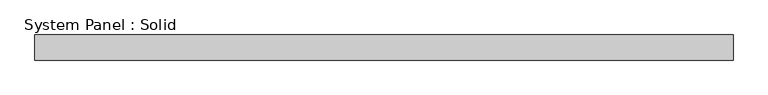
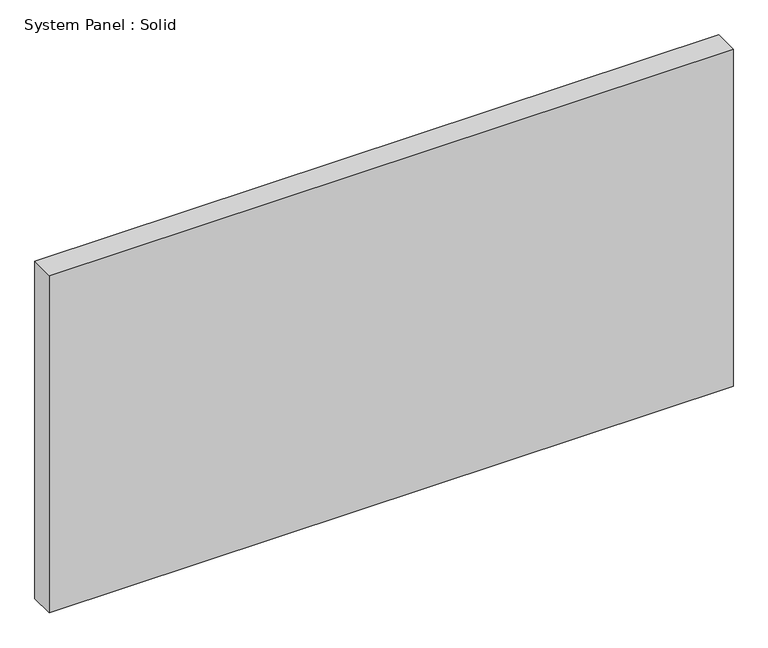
"""IFC4 building model written with IfcOpenShell, lengths in millimetres: plate geometry, System Panel : Solid."""

import ifcopenshell
import ifcopenshell.guid

model = None  # the IFC model being written
_history = None  # IfcOwnerHistory: only IFC2X3 demands one
_inside = {}  # id of a spatial element -> (the spatial element, [elements in it])
_under = {}  # id of a project, library or spatial element -> (it, [spatial elements below it])
_declared = {}  # id of a project -> (the project, [libraries it declares])
_typed = {}  # id of a type object -> (the type object, [elements of that type])
_made_of = {}  # id of a material, layer set ... -> (it, [elements and type objects made of it])


def new_model(schema):
    """Start an empty IFC model of exactly this schema.

    Asked for "IFC4X3", IfcOpenShell would pick the latest addendum, in which some entities
    have other attributes; the version numbers below select the first issue.
    IFC2X3 requires an IfcOwnerHistory on every rooted entity: one is made here for all.
    """
    global model, _history
    if schema == "IFC4X3":
        model = ifcopenshell.file(schema_version=(4, 3, 0, 0))
    else:
        model = ifcopenshell.file(schema=schema)
    _inside.clear()
    _under.clear()
    _declared.clear()
    _typed.clear()
    _made_of.clear()
    _history = None
    if model.schema == "IFC2X3":
        org = make("IfcOrganization", Name="unknown")
        user = make(
            "IfcPersonAndOrganization",
            ThePerson=make("IfcPerson", FamilyName="unknown"),
            TheOrganization=org,
        )
        app = make(
            "IfcApplication",
            ApplicationDeveloper=org,
            Version="unknown",
            ApplicationFullName="unknown",
            ApplicationIdentifier="unknown",
        )
        _history = make(
            "IfcOwnerHistory",
            OwningUser=user,
            OwningApplication=app,
            ChangeAction="ADDED",
            CreationDate=0,
        )
    return model


def make(cls, **values):
    """One entity of the class cls with the attributes given. An attribute that is None is left unset."""
    return model.create_entity(
        cls, **{name: value for name, value in values.items() if value is not None}
    )


def rooted(cls, **values):
    """An entity with a GlobalId (a new one), such as an element, a storey or a relation."""
    return make(cls, GlobalId=ifcopenshell.guid.new(), OwnerHistory=_history, **values)


def si_unit(unit_type, name, prefix=None):
    """IfcSIUnit, for example si_unit("LENGTHUNIT", "METRE", prefix="MILLI")."""
    return make("IfcSIUnit", UnitType=unit_type, Prefix=prefix, Name=name)


def assignment(units):
    """IfcUnitAssignment: the units of a project."""
    return None if units is None else make("IfcUnitAssignment", Units=units)


def point(xyz):
    """IfcCartesianPoint."""
    return None if xyz is None else make("IfcCartesianPoint", Coordinates=xyz)


def direction(xyz):
    """IfcDirection."""
    return None if xyz is None else make("IfcDirection", DirectionRatios=xyz)


def frame(location, z_axis=None, x_axis=None):
    """IfcAxis2Placement3D, a coordinate frame: its origin and axes. An axis left out is left unset."""
    return make(
        "IfcAxis2Placement3D",
        Location=point(location),
        Axis=direction(z_axis),
        RefDirection=direction(x_axis),
    )


def origin():
    """The frame at (0, 0, 0) with its axes left unset."""
    return frame((0.0, 0.0, 0.0))


def origin_with_axes():
    """The frame at (0, 0, 0) with the z axis (0, 0, 1) and the x axis (1, 0, 0) written out."""
    return frame((0.0, 0.0, 0.0), z_axis=(0.0, 0.0, 1.0), x_axis=(1.0, 0.0, 0.0))


def place(relative_to, where):
    """IfcLocalPlacement: puts the frame where relative to a parent placement (None: the world)."""
    return make(
        "IfcLocalPlacement", PlacementRelTo=relative_to, RelativePlacement=where
    )


def context(
    kind, dimensions, precision=None, world=None, true_north=None, identifier=None
):
    """IfcGeometricRepresentationContext, for example the 3D "Model" context."""
    return make(
        "IfcGeometricRepresentationContext",
        ContextIdentifier=identifier,
        ContextType=kind,
        CoordinateSpaceDimension=dimensions,
        Precision=precision,
        WorldCoordinateSystem=world,
        TrueNorth=true_north,
    )


def project(units=None, contexts=None):
    """IfcProject with its units and contexts."""
    return rooted(
        "IfcProject",
        Name="project",
        RepresentationContexts=contexts,
        UnitsInContext=assignment(units),
    )


def spatial(cls, under=None, at=None, **own):
    """A site, building, storey or space (cls), placed at a placement, below another one or the project."""
    s = rooted(cls, ObjectPlacement=at, **own)
    if under is not None:
        _under.setdefault(under.id(), (under, []))[1].append(s)
    return s


def polyline(points):
    """IfcPolyline through the points."""
    return make("IfcPolyline", Points=[point(p) for p in points])


def outline(outer, holes=None, kind="AREA"):
    """IfcArbitraryClosedProfileDef: a profile drawn as a closed curve; with holes, ...WithVoids."""
    if holes is None:
        return make("IfcArbitraryClosedProfileDef", ProfileType=kind, OuterCurve=outer)
    return make(
        "IfcArbitraryProfileDefWithVoids",
        ProfileType=kind,
        OuterCurve=outer,
        InnerCurves=holes,
    )


def extrude(swept, where, along, depth):
    """IfcExtrudedAreaSolid: the profile swept, set in the frame where, extruded along a direction by depth."""
    return make(
        "IfcExtrudedAreaSolid",
        SweptArea=swept,
        Position=where,
        ExtrudedDirection=direction(along),
        Depth=depth,
    )


def shape(context_of_items, identifier, shape_type, items):
    """IfcShapeRepresentation: the items that make up one representation, for example the "Body"."""
    return make(
        "IfcShapeRepresentation",
        ContextOfItems=context_of_items,
        RepresentationIdentifier=identifier,
        RepresentationType=shape_type,
        Items=items,
    )


def source(mapping_origin, context_of_items, identifier, shape_type, items):
    """IfcRepresentationMap: a shape defined once, which mapped items show again and again."""
    return make(
        "IfcRepresentationMap",
        MappingOrigin=mapping_origin,
        MappedRepresentation=shape(context_of_items, identifier, shape_type, items),
    )


def transform(
    local_origin,
    x_axis=None,
    y_axis=None,
    z_axis=None,
    scale=None,
    scale2=None,
    scale3=None,
    uniform=True,
):
    """IfcCartesianTransformationOperator3D, or its non-uniform kind. x_axis, y_axis, z_axis: its Axis1, 2, 3."""
    if uniform:
        return make(
            "IfcCartesianTransformationOperator3D",
            Axis1=direction(x_axis),
            Axis2=direction(y_axis),
            LocalOrigin=point(local_origin),
            Scale=scale,
            Axis3=direction(z_axis),
        )
    return make(
        "IfcCartesianTransformationOperator3DnonUniform",
        Axis1=direction(x_axis),
        Axis2=direction(y_axis),
        LocalOrigin=point(local_origin),
        Scale=scale,
        Axis3=direction(z_axis),
        Scale2=scale2,
        Scale3=scale3,
    )


def mapped(mapping_source, mapping_target):
    """IfcMappedItem: shows the shape of a source again, moved by a transform."""
    return make(
        "IfcMappedItem", MappingSource=mapping_source, MappingTarget=mapping_target
    )


def made_of(thing, what):
    """Note that an element or type object is made of a material, layer set ...; save() writes the relation."""
    if what is not None:
        _made_of.setdefault(what.id(), (what, []))[1].append(thing)
    return thing


def element(
    cls,
    number,
    at=None,
    inside=None,
    cuts=None,
    type_object=None,
    material=None,
    context=None,
    identifier="Body",
    shape_type=None,
    held_by="IfcProductDefinitionShape",
    body=None,
    shapes=None,
    **own,
):
    """One element of the class cls, such as IfcWall. Its Tag is "e" and its number.

    at: its placement. inside: the storey or other place that contains it. cuts: it is an
    opening in that element (IfcRelVoidsElement). A single representation is given by context,
    identifier, shape_type and body (its items); several are given by shapes. held_by: the class
    of the entity that holds the representations. save() writes the other relations.
    """
    e = rooted(cls, Tag="e%d" % number, ObjectPlacement=at, **own)
    if body is not None:
        shapes = [shape(context, identifier, shape_type, body)]
    if shapes is not None:
        e.Representation = make(held_by, Representations=shapes)
    if inside is not None:
        _inside.setdefault(inside.id(), (inside, []))[1].append(e)
    if cuts is not None:
        rooted(
            "IfcRelVoidsElement", RelatingBuildingElement=cuts, RelatedOpeningElement=e
        )
    if type_object is not None:
        _typed.setdefault(type_object.id(), (type_object, []))[1].append(e)
    return made_of(e, material)


def aggregate(whole, parts):
    """IfcRelAggregates: a whole, such as a stair, and the parts it consists of."""
    return rooted("IfcRelAggregates", RelatingObject=whole, RelatedObjects=parts)


def save(model, path):
    """Write the relations noted so far, then the file.

    IfcRelAggregates (storeys below a building ...), IfcRelContainedInSpatialStructure (elements
    in a storey), IfcRelDefinesByType, IfcRelAssociatesMaterial and IfcRelDeclares: one each for
    every whole, place, type object, material and project.
    """
    for whole, parts in _under.values():
        aggregate(whole, parts)
    for where, things in _inside.values():
        rooted(
            "IfcRelContainedInSpatialStructure",
            RelatedElements=things,
            RelatingStructure=where,
        )
    for kind, things in _typed.values():
        rooted("IfcRelDefinesByType", RelatedObjects=things, RelatingType=kind)
    for what, things in _made_of.values():
        rooted("IfcRelAssociatesMaterial", RelatedObjects=things, RelatingMaterial=what)
    for by, libraries in _declared.values():
        rooted("IfcRelDeclares", RelatingContext=by, RelatedDefinitions=libraries)
    model.write(path)


def system_panel_solid_5dfe6f83(model_context):
    return source(origin(), model_context, "Body", "SweptSolid", [
        extrude(outline(polyline([(882.65, -19.05), (-882.65, -19.05), (-882.65, 44.45), (882.65, 44.45), (882.65, -19.05)])), origin_with_axes(), (0.0, 0.0, 1.0), 920.75),
    ])


if __name__ == "__main__":
    model = new_model("IFC4")
    model_context = context("Model", 3, world=origin())
    ifc_project = project(units=[si_unit("LENGTHUNIT", "METRE", prefix="MILLI")], contexts=[model_context])
    site = spatial("IfcSite", under=ifc_project)
    building = spatial("IfcBuilding", under=site)
    placement = place(None, origin())
    system_panel_solid_shape = system_panel_solid_5dfe6f83(model_context)
    element("IfcPlate", 1, ObjectType="System Panel : Solid", at=placement, inside=building, context=model_context, shape_type="MappedRepresentation", body=[
        mapped(system_panel_solid_shape, transform((0.0, 0.0, 0.0), x_axis=(1.0, 0.0, 0.0), y_axis=(0.0, 1.0, 0.0), z_axis=(0.0, 0.0, 1.0))),
    ])
    save(model, "model.ifc")
